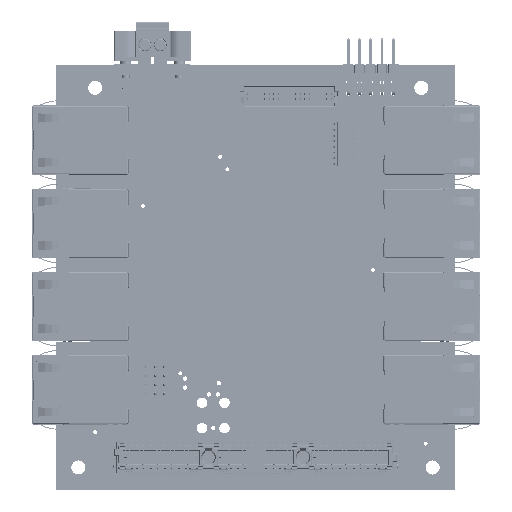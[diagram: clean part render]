
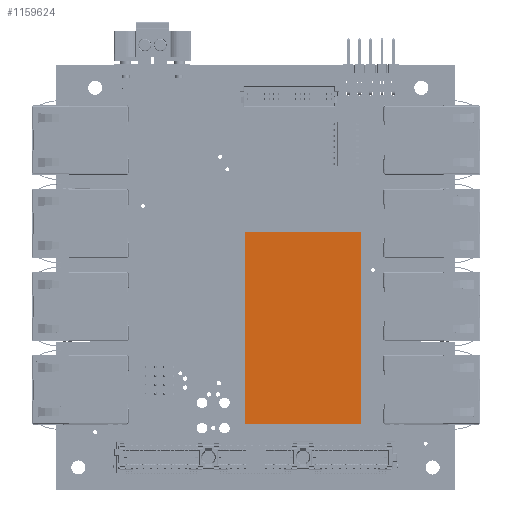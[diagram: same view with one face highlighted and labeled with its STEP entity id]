
A CAD part, top view. The second image highlights one B-rep face of the part: STEP entity #1159624.
In plain terms, the highlighted planar face has unit normal (0, 0, 1) as drawn and (0, 1, 0) by its records, which use the part's own axes.
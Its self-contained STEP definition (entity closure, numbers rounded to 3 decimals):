
#1159511 = VERTEX_POINT('',#1159512);
#1159512 = CARTESIAN_POINT('',(21.6,11.25,-13.125));
#1159519 = PLANE('',#1159520);
#1159520 = AXIS2_PLACEMENT_3D('',#1159521,#1159522,#1159523);
#1159521 = CARTESIAN_POINT('',(13.125,5.75,13.125));
#1159522 = DIRECTION('',(-0.544,0.839,0.));
#1159523 = DIRECTION('',(-0.839,-0.544,0.));
#1159531 = PLANE('',#1159532);
#1159532 = AXIS2_PLACEMENT_3D('',#1159533,#1159534,#1159535);
#1159533 = CARTESIAN_POINT('',(0.,-2.768,
    -13.125));
#1159534 = DIRECTION('',(0.,0.,1.));
#1159535 = DIRECTION('',(1.,0.,0.));
#1159543 = EDGE_CURVE('',#1159544,#1159511,#1159546,.T.);
#1159544 = VERTEX_POINT('',#1159545);
#1159545 = CARTESIAN_POINT('',(21.6,11.25,13.125));
#1159546 = SURFACE_CURVE('',#1159547,(#1159551,#1159558),.PCURVE_S1.);
#1159547 = LINE('',#1159548,#1159549);
#1159548 = CARTESIAN_POINT('',(21.6,11.25,13.125));
#1159549 = VECTOR('',#1159550,1.);
#1159550 = DIRECTION('',(0.,0.,-1.));
#1159551 = PCURVE('',#1159519,#1159552);
#1159552 = DEFINITIONAL_REPRESENTATION('',(#1159553),#1159557);
#1159553 = LINE('',#1159554,#1159555);
#1159554 = CARTESIAN_POINT('',(-10.103,0.));
#1159555 = VECTOR('',#1159556,1.);
#1159556 = DIRECTION('',(0.,-1.));
#1159557 = ( GEOMETRIC_REPRESENTATION_CONTEXT(2) 
PARAMETRIC_REPRESENTATION_CONTEXT() REPRESENTATION_CONTEXT('2D SPACE',''
  ) );
#1159558 = PCURVE('',#1159559,#1159564);
#1159559 = PLANE('',#1159560);
#1159560 = AXIS2_PLACEMENT_3D('',#1159561,#1159562,#1159563);
#1159561 = CARTESIAN_POINT('',(-21.6,11.25,13.125));
#1159562 = DIRECTION('',(0.,-1.,0.));
#1159563 = DIRECTION('',(0.,0.,-1.));
#1159564 = DEFINITIONAL_REPRESENTATION('',(#1159565),#1159569);
#1159565 = LINE('',#1159566,#1159567);
#1159566 = CARTESIAN_POINT('',(0.,43.2));
#1159567 = VECTOR('',#1159568,1.);
#1159568 = DIRECTION('',(1.,0.));
#1159569 = ( GEOMETRIC_REPRESENTATION_CONTEXT(2) 
PARAMETRIC_REPRESENTATION_CONTEXT() REPRESENTATION_CONTEXT('2D SPACE',''
  ) );
#1159587 = PLANE('',#1159588);
#1159588 = AXIS2_PLACEMENT_3D('',#1159589,#1159590,#1159591);
#1159589 = CARTESIAN_POINT('',(0.,-2.768,13.125
    ));
#1159590 = DIRECTION('',(0.,0.,1.));
#1159591 = DIRECTION('',(1.,0.,0.));
#1159624 = ADVANCED_FACE('',(#1159625),#1159559,.F.);
#1159625 = FACE_BOUND('',#1159626,.T.);
#1159626 = EDGE_LOOP('',(#1159627,#1159650,#1159678,#1159699));
#1159627 = ORIENTED_EDGE('',*,*,#1159628,.T.);
#1159628 = EDGE_CURVE('',#1159511,#1159629,#1159631,.T.);
#1159629 = VERTEX_POINT('',#1159630);
#1159630 = CARTESIAN_POINT('',(-21.6,11.25,-13.125));
#1159631 = SURFACE_CURVE('',#1159632,(#1159636,#1159643),.PCURVE_S1.);
#1159632 = LINE('',#1159633,#1159634);
#1159633 = CARTESIAN_POINT('',(-21.6,11.25,-13.125));
#1159634 = VECTOR('',#1159635,1.);
#1159635 = DIRECTION('',(-1.,0.,0.));
#1159636 = PCURVE('',#1159559,#1159637);
#1159637 = DEFINITIONAL_REPRESENTATION('',(#1159638),#1159642);
#1159638 = LINE('',#1159639,#1159640);
#1159639 = CARTESIAN_POINT('',(26.25,0.));
#1159640 = VECTOR('',#1159641,1.);
#1159641 = DIRECTION('',(0.,-1.));
#1159642 = ( GEOMETRIC_REPRESENTATION_CONTEXT(2) 
PARAMETRIC_REPRESENTATION_CONTEXT() REPRESENTATION_CONTEXT('2D SPACE',''
  ) );
#1159643 = PCURVE('',#1159531,#1159644);
#1159644 = DEFINITIONAL_REPRESENTATION('',(#1159645),#1159649);
#1159645 = LINE('',#1159646,#1159647);
#1159646 = CARTESIAN_POINT('',(-21.6,14.018));
#1159647 = VECTOR('',#1159648,1.);
#1159648 = DIRECTION('',(-1.,0.));
#1159649 = ( GEOMETRIC_REPRESENTATION_CONTEXT(2) 
PARAMETRIC_REPRESENTATION_CONTEXT() REPRESENTATION_CONTEXT('2D SPACE',''
  ) );
#1159650 = ORIENTED_EDGE('',*,*,#1159651,.F.);
#1159651 = EDGE_CURVE('',#1159652,#1159629,#1159654,.T.);
#1159652 = VERTEX_POINT('',#1159653);
#1159653 = CARTESIAN_POINT('',(-21.6,11.25,13.125));
#1159654 = SURFACE_CURVE('',#1159655,(#1159659,#1159666),.PCURVE_S1.);
#1159655 = LINE('',#1159656,#1159657);
#1159656 = CARTESIAN_POINT('',(-21.6,11.25,13.125));
#1159657 = VECTOR('',#1159658,1.);
#1159658 = DIRECTION('',(0.,0.,-1.));
#1159659 = PCURVE('',#1159559,#1159660);
#1159660 = DEFINITIONAL_REPRESENTATION('',(#1159661),#1159665);
#1159661 = LINE('',#1159662,#1159663);
#1159662 = CARTESIAN_POINT('',(0.,0.));
#1159663 = VECTOR('',#1159664,1.);
#1159664 = DIRECTION('',(1.,0.));
#1159665 = ( GEOMETRIC_REPRESENTATION_CONTEXT(2) 
PARAMETRIC_REPRESENTATION_CONTEXT() REPRESENTATION_CONTEXT('2D SPACE',''
  ) );
#1159666 = PCURVE('',#1159667,#1159672);
#1159667 = PLANE('',#1159668);
#1159668 = AXIS2_PLACEMENT_3D('',#1159669,#1159670,#1159671);
#1159669 = CARTESIAN_POINT('',(-13.125,5.75,13.125));
#1159670 = DIRECTION('',(0.544,0.839,0.));
#1159671 = DIRECTION('',(-0.839,0.544,0.));
#1159672 = DEFINITIONAL_REPRESENTATION('',(#1159673),#1159677);
#1159673 = LINE('',#1159674,#1159675);
#1159674 = CARTESIAN_POINT('',(10.103,0.));
#1159675 = VECTOR('',#1159676,1.);
#1159676 = DIRECTION('',(0.,-1.));
#1159677 = ( GEOMETRIC_REPRESENTATION_CONTEXT(2) 
PARAMETRIC_REPRESENTATION_CONTEXT() REPRESENTATION_CONTEXT('2D SPACE',''
  ) );
#1159678 = ORIENTED_EDGE('',*,*,#1159679,.F.);
#1159679 = EDGE_CURVE('',#1159544,#1159652,#1159680,.T.);
#1159680 = SURFACE_CURVE('',#1159681,(#1159685,#1159692),.PCURVE_S1.);
#1159681 = LINE('',#1159682,#1159683);
#1159682 = CARTESIAN_POINT('',(-21.6,11.25,13.125));
#1159683 = VECTOR('',#1159684,1.);
#1159684 = DIRECTION('',(-1.,0.,0.));
#1159685 = PCURVE('',#1159559,#1159686);
#1159686 = DEFINITIONAL_REPRESENTATION('',(#1159687),#1159691);
#1159687 = LINE('',#1159688,#1159689);
#1159688 = CARTESIAN_POINT('',(0.,0.));
#1159689 = VECTOR('',#1159690,1.);
#1159690 = DIRECTION('',(0.,-1.));
#1159691 = ( GEOMETRIC_REPRESENTATION_CONTEXT(2) 
PARAMETRIC_REPRESENTATION_CONTEXT() REPRESENTATION_CONTEXT('2D SPACE',''
  ) );
#1159692 = PCURVE('',#1159587,#1159693);
#1159693 = DEFINITIONAL_REPRESENTATION('',(#1159694),#1159698);
#1159694 = LINE('',#1159695,#1159696);
#1159695 = CARTESIAN_POINT('',(-21.6,14.018));
#1159696 = VECTOR('',#1159697,1.);
#1159697 = DIRECTION('',(-1.,0.));
#1159698 = ( GEOMETRIC_REPRESENTATION_CONTEXT(2) 
PARAMETRIC_REPRESENTATION_CONTEXT() REPRESENTATION_CONTEXT('2D SPACE',''
  ) );
#1159699 = ORIENTED_EDGE('',*,*,#1159543,.T.);
